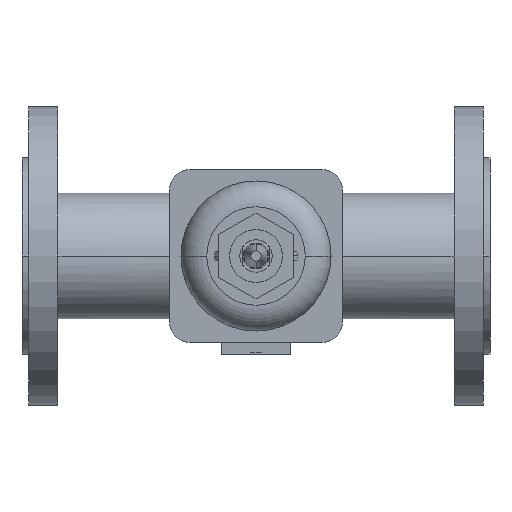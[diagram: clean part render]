
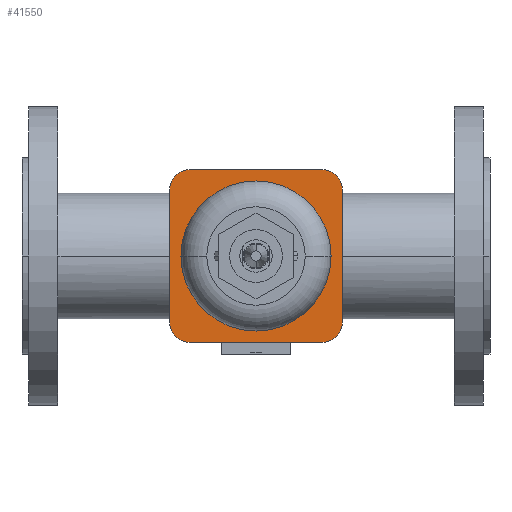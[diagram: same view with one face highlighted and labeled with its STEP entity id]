
A CAD part, front view. The second image highlights one B-rep face of the part: STEP entity #41550.
In plain terms, the highlighted planar face has unit normal (0, -1, 0).
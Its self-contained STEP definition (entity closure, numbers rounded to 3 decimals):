
#6060=CARTESIAN_POINT('',(191.5,-111.15,0.));
#6070=VERTEX_POINT('',#6060);
#6100=CARTESIAN_POINT('',(145.,-111.15,0.));
#6110=DIRECTION('',(0.,-1.,0.));
#6120=DIRECTION('',(-1.,0.,0.));
#6130=AXIS2_PLACEMENT_3D('',#6100,#6110,#6120);
#6140=CIRCLE('',#6130,46.5);
#6150=CARTESIAN_POINT('',(98.5,-111.15,0.));
#6160=VERTEX_POINT('',#6150);
#6170=EDGE_CURVE('',#6160,#6070,#6140,.T.);
#27400=CARTESIAN_POINT('',(198.659,-111.15,40.659));
#27410=VERTEX_POINT('',#27400);
#27460=CARTESIAN_POINT('',(185.659,-111.15,40.659));
#27470=DIRECTION('',(0.,-1.,0.));
#27480=DIRECTION('',(0.,0.,1.));
#27490=AXIS2_PLACEMENT_3D('',#27460,#27470,#27480);
#27500=CIRCLE('',#27490,13.);
#27510=CARTESIAN_POINT('',(185.659,-111.15,53.659));
#27520=VERTEX_POINT('',#27510);
#27530=EDGE_CURVE('',#27410,#27520,#27500,.T.);
#30850=CARTESIAN_POINT('',(104.341,-111.15,53.659));
#30860=VERTEX_POINT('',#30850);
#30910=CARTESIAN_POINT('',(104.341,-111.15,40.659));
#30920=DIRECTION('',(0.,-1.,0.));
#30930=DIRECTION('',(-1.,0.,0.));
#30940=AXIS2_PLACEMENT_3D('',#30910,#30920,#30930);
#30950=CIRCLE('',#30940,13.);
#30960=CARTESIAN_POINT('',(91.341,-111.15,40.659));
#30970=VERTEX_POINT('',#30960);
#30980=EDGE_CURVE('',#30860,#30970,#30950,.T.);
#32340=CARTESIAN_POINT('',(198.659,-111.15,-40.659));
#32350=VERTEX_POINT('',#32340);
#32380=CARTESIAN_POINT('',(198.659,-111.15,20.329));
#32390=DIRECTION('',(0.,0.,1.));
#32400=VECTOR('',#32390,1.);
#32410=LINE('',#32380,#32400);
#32420=EDGE_CURVE('',#32350,#27410,#32410,.T.);
#34640=CARTESIAN_POINT('',(95.171,-111.15,53.659));
#34650=DIRECTION('',(-1.,0.,0.));
#34660=VECTOR('',#34650,1.);
#34670=LINE('',#34640,#34660);
#34680=EDGE_CURVE('',#27520,#30860,#34670,.T.);
#40310=CARTESIAN_POINT('',(185.659,-111.15,-53.659));
#40320=VERTEX_POINT('',#40310);
#40350=CARTESIAN_POINT('',(185.659,-111.15,-40.659));
#40360=DIRECTION('',(0.,-1.,0.));
#40370=DIRECTION('',(1.,0.,0.));
#40380=AXIS2_PLACEMENT_3D('',#40350,#40360,#40370);
#40390=CIRCLE('',#40380,13.);
#40400=EDGE_CURVE('',#40320,#32350,#40390,.T.);
#41150=CARTESIAN_POINT('',(86.,-111.15,0.));
#41160=DIRECTION('',(0.,-1.,0.));
#41170=DIRECTION('',(-1.,0.,0.));
#41180=AXIS2_PLACEMENT_3D('',#41150,#41160,#41170);
#41190=PLANE('',#41180);
#41200=ORIENTED_EDGE('',*,*,#30980,.T.);
#41210=ORIENTED_EDGE('',*,*,#34680,.T.);
#41220=ORIENTED_EDGE('',*,*,#27530,.T.);
#41230=ORIENTED_EDGE('',*,*,#32420,.T.);
#41240=ORIENTED_EDGE('',*,*,#40400,.T.);
#41250=CARTESIAN_POINT('',(135.829,-111.15,-53.659));
#41260=DIRECTION('',(1.,0.,0.));
#41270=VECTOR('',#41260,1.);
#41280=LINE('',#41250,#41270);
#41290=CARTESIAN_POINT('',(104.341,-111.15,-53.659));
#41300=VERTEX_POINT('',#41290);
#41310=EDGE_CURVE('',#41300,#40320,#41280,.T.);
#41320=ORIENTED_EDGE('',*,*,#41310,.T.);
#41330=CARTESIAN_POINT('',(104.341,-111.15,-40.659));
#41340=DIRECTION('',(0.,-1.,0.));
#41350=DIRECTION('',(0.,0.,-1.));
#41360=AXIS2_PLACEMENT_3D('',#41330,#41340,#41350);
#41370=CIRCLE('',#41360,13.);
#41380=CARTESIAN_POINT('',(91.341,-111.15,-40.659));
#41390=VERTEX_POINT('',#41380);
#41400=EDGE_CURVE('',#41390,#41300,#41370,.T.);
#41410=ORIENTED_EDGE('',*,*,#41400,.T.);
#41420=CARTESIAN_POINT('',(91.341,-111.15,-20.329));
#41430=DIRECTION('',(0.,0.,-1.));
#41440=VECTOR('',#41430,1.);
#41450=LINE('',#41420,#41440);
#41460=EDGE_CURVE('',#30970,#41390,#41450,.T.);
#41470=ORIENTED_EDGE('',*,*,#41460,.T.);
#41480=EDGE_LOOP('',(#41470,#41410,#41320,#41240,#41230,#41220,#41210,
#41200));
#41490=FACE_OUTER_BOUND('',#41480,.T.);
#41500=ORIENTED_EDGE('',*,*,#6170,.F.);
#41510=EDGE_CURVE('',#6070,#6160,#6140,.T.);
#41520=ORIENTED_EDGE('',*,*,#41510,.F.);
#41530=EDGE_LOOP('',(#41520,#41500));
#41540=FACE_BOUND('',#41530,.T.);
#41550=ADVANCED_FACE('',(#41490,#41540),#41190,.T.);
